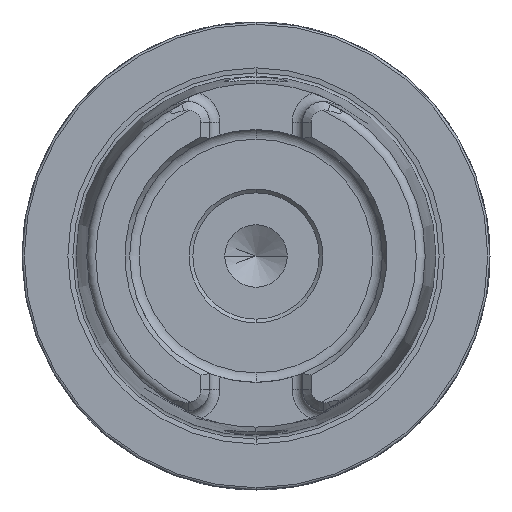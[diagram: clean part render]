
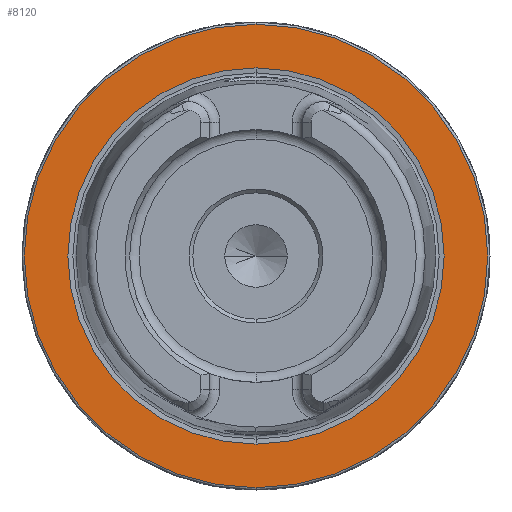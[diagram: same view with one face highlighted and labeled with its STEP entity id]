
A CAD part, left-side view. The second image highlights one B-rep face of the part: STEP entity #8120.
In plain terms, the highlighted planar face has unit normal (-1, 0, 0).
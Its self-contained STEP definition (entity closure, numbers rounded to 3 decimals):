
#541 = DIRECTION ( 'NONE',  ( -1., 0., 0. ) ) ;
#850 = ORIENTED_EDGE ( 'NONE', *, *, #14601, .F. ) ;
#1599 = VERTEX_POINT ( 'NONE', #12401 ) ;
#2362 = DIRECTION ( 'NONE',  ( -1., 0., 0. ) ) ;
#2770 = FACE_BOUND ( 'NONE', #14233, .T. ) ;
#2825 = CIRCLE ( 'NONE', #2960, 31.2 ) ;
#2960 = AXIS2_PLACEMENT_3D ( 'NONE', #9755, #541, #8525 ) ;
#3440 = VERTEX_POINT ( 'NONE', #7825 ) ;
#3848 = VERTEX_POINT ( 'NONE', #13378 ) ;
#4021 = CIRCLE ( 'NONE', #14693, 31.2 ) ;
#4490 = CIRCLE ( 'NONE', #11935, 25.324 ) ;
#4647 = DIRECTION ( 'NONE',  ( 0., 0., 1. ) ) ;
#4791 = CARTESIAN_POINT ( 'NONE',  ( 0., 0., 0. ) ) ;
#5257 = CARTESIAN_POINT ( 'NONE',  ( 0., 0., -31.2 ) ) ;
#5795 = DIRECTION ( 'NONE',  ( 0., 0., -1. ) ) ;
#5991 = CIRCLE ( 'NONE', #9022, 25.324 ) ;
#6312 = EDGE_CURVE ( 'NONE', #11624, #3848, #2825, .T. ) ;
#7825 = CARTESIAN_POINT ( 'NONE',  ( 0., 0., 25.324 ) ) ;
#8120 = ADVANCED_FACE ( 'NONE', ( #2770, #13858 ), #12753, .F. ) ;
#8525 = DIRECTION ( 'NONE',  ( 0., 0., 1. ) ) ;
#9022 = AXIS2_PLACEMENT_3D ( 'NONE', #14735, #12500, #11409 ) ;
#9454 = EDGE_LOOP ( 'NONE', ( #11339, #9479 ) ) ;
#9479 = ORIENTED_EDGE ( 'NONE', *, *, #6312, .T. ) ;
#9755 = CARTESIAN_POINT ( 'NONE',  ( 0., 0., 0. ) ) ;
#11339 = ORIENTED_EDGE ( 'NONE', *, *, #14013, .T. ) ;
#11409 = DIRECTION ( 'NONE',  ( 0., 0., 1. ) ) ;
#11568 = CARTESIAN_POINT ( 'NONE',  ( 0., 31.2, 0. ) ) ;
#11572 = CARTESIAN_POINT ( 'NONE',  ( 0., 0., 0. ) ) ;
#11624 = VERTEX_POINT ( 'NONE', #5257 ) ;
#11867 = EDGE_CURVE ( 'NONE', #1599, #3440, #4490, .T. ) ;
#11935 = AXIS2_PLACEMENT_3D ( 'NONE', #11572, #2362, #12758 ) ;
#12140 = AXIS2_PLACEMENT_3D ( 'NONE', #11568, #13790, #5795 ) ;
#12401 = CARTESIAN_POINT ( 'NONE',  ( 0., 0., -25.324 ) ) ;
#12500 = DIRECTION ( 'NONE',  ( -1., 0., 0. ) ) ;
#12753 = PLANE ( 'NONE',  #12140 ) ;
#12758 = DIRECTION ( 'NONE',  ( 0., 0., 1. ) ) ;
#13128 = ORIENTED_EDGE ( 'NONE', *, *, #11867, .F. ) ;
#13378 = CARTESIAN_POINT ( 'NONE',  ( 0., 0., 31.2 ) ) ;
#13790 = DIRECTION ( 'NONE',  ( 1., 0., 0. ) ) ;
#13858 = FACE_OUTER_BOUND ( 'NONE', #9454, .T. ) ;
#13959 = DIRECTION ( 'NONE',  ( -1., 0., 0. ) ) ;
#14013 = EDGE_CURVE ( 'NONE', #3848, #11624, #4021, .T. ) ;
#14233 = EDGE_LOOP ( 'NONE', ( #850, #13128 ) ) ;
#14601 = EDGE_CURVE ( 'NONE', #3440, #1599, #5991, .T. ) ;
#14693 = AXIS2_PLACEMENT_3D ( 'NONE', #4791, #13959, #4647 ) ;
#14735 = CARTESIAN_POINT ( 'NONE',  ( 0., 0., 0. ) ) ;
